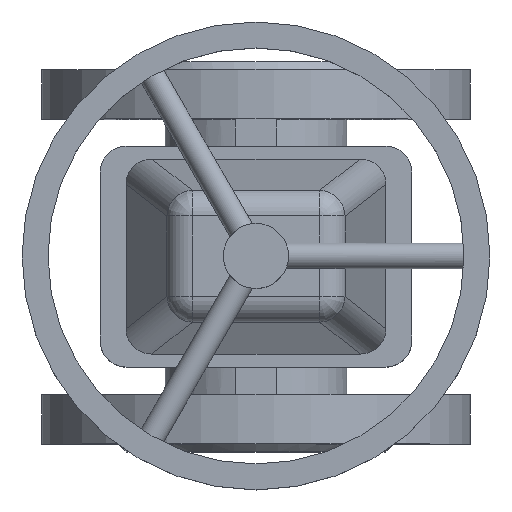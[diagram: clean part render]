
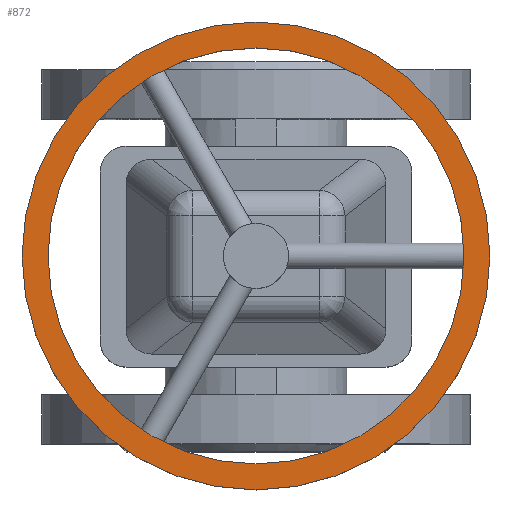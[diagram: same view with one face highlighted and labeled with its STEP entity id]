
A CAD part, top view. The second image highlights one B-rep face of the part: STEP entity #872.
In plain terms, the highlighted planar face has unit normal (0, 0, 1).
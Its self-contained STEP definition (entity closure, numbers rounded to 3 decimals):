
#872=ADVANCED_FACE('',(#1906,#1908),#1910,.T.);
#1906=FACE_BOUND('',#1907,.T.);
#1907=EDGE_LOOP('',(#2351));
#1908=FACE_BOUND('',#1909,.T.);
#1909=EDGE_LOOP('',(#2352));
#1910=PLANE('',#1911);
#1911=AXIS2_PLACEMENT_3D('',#1912,#1913,#1914);
#1912=CARTESIAN_POINT('',(0.,0.,237.5));
#1913=DIRECTION('',(0.,0.,1.));
#1914=DIRECTION('',(0.,-1.,0.));
#2351=ORIENTED_EDGE('',*,*,#2567,.T.);
#2352=ORIENTED_EDGE('',*,*,#2565,.T.);
#2565=EDGE_CURVE('',#2921,#2921,#2922,.F.);
#2567=EDGE_CURVE('',#2925,#2925,#2926,.T.);
#2921=VERTEX_POINT('',#4493);
#2922=CIRCLE('',#4494,80.);
#2925=VERTEX_POINT('',#4503);
#2926=CIRCLE('',#4504,90.);
#4493=CARTESIAN_POINT('',(0.,-80.,237.5));
#4494=AXIS2_PLACEMENT_3D('',#4495,#4496,#4497);
#4495=CARTESIAN_POINT('',(0.,0.,237.5));
#4496=DIRECTION('',(0.,0.,1.));
#4497=DIRECTION('',(0.,-1.,0.));
#4503=CARTESIAN_POINT('',(0.,-90.,237.5));
#4504=AXIS2_PLACEMENT_3D('',#4505,#4506,#4507);
#4505=CARTESIAN_POINT('',(0.,0.,237.5));
#4506=DIRECTION('',(0.,0.,1.));
#4507=DIRECTION('',(0.,-1.,0.));
